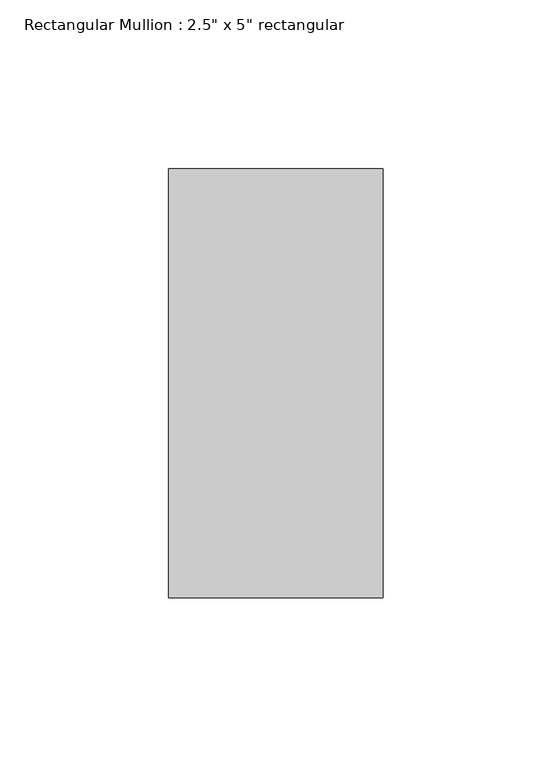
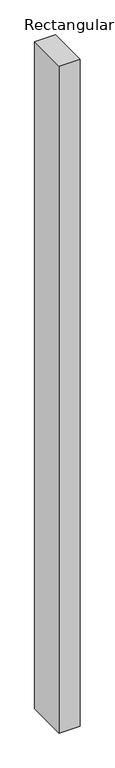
"""IFC4 building model written with IfcOpenShell, lengths in millimetres: member geometry."""

from ifc_helpers import new_model, si_unit, frame, origin, place, context, project, spatial, polyline, outline, extrude, source, transform, mapped, element, save


def member_e8e0431c(model_context):
    return source(origin(), model_context, "Body", "SweptSolid", [
        extrude(outline(polyline([(31.75, 63.5), (31.75, -63.5), (-31.75, -63.5), (-31.75, 63.5), (31.75, 63.5)])), frame((0.0, 0.0, -2124.6903385), z_axis=(0.0, 0.0, 1.0), x_axis=(1.0, 0.0, 0.0)), (0.0, 0.0, 1.0), 2124.6903385),
    ])


if __name__ == "__main__":
    model = new_model("IFC4")
    model_context = context("Model", 3, world=origin())
    ifc_project = project(units=[si_unit("LENGTHUNIT", "METRE", prefix="MILLI")], contexts=[model_context])
    site = spatial("IfcSite", under=ifc_project)
    building = spatial("IfcBuilding", under=site)
    placement = place(None, origin())
    member_shape = member_e8e0431c(model_context)
    element("IfcMember", 1, ObjectType="Rectangular Mullion : 2.5\" x 5\" rectangular", at=placement, inside=building, context=model_context, shape_type="MappedRepresentation", body=[
        mapped(member_shape, transform((0.0, 0.0, 0.0), x_axis=(1.0, 0.0, 0.0), y_axis=(0.0, 1.0, 0.0), z_axis=(0.0, 0.0, 1.0))),
    ])
    save(model, "model.ifc")
